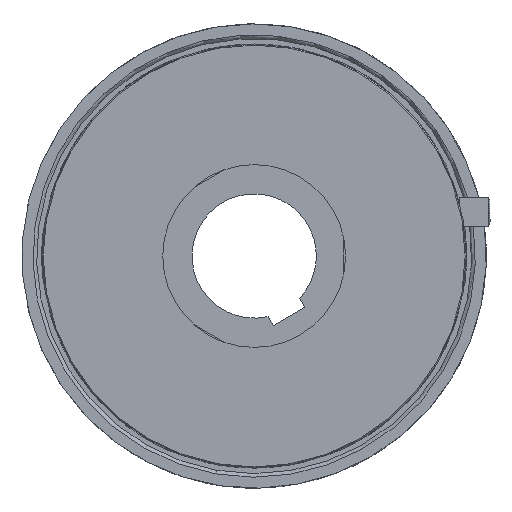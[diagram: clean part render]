
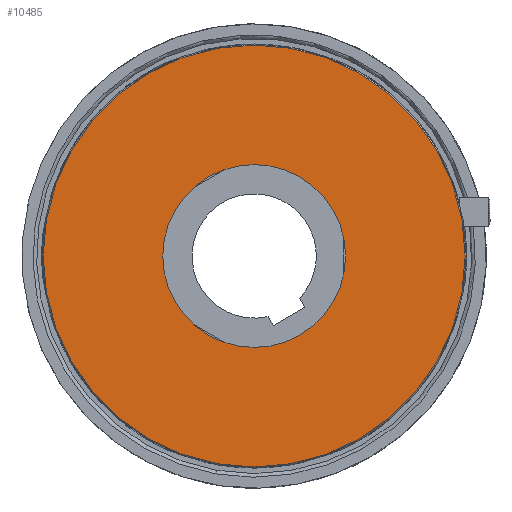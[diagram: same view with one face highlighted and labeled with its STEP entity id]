
A CAD part, left-side view. The second image highlights one B-rep face of the part: STEP entity #10485.
In plain terms, the highlighted planar face has unit normal (-1, 0, 0).
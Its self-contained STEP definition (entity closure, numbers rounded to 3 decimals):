
#2128=PLANE('',#11132);
#2435=FACE_BOUND('',#3304,.T.);
#2718=FACE_OUTER_BOUND('',#3303,.T.);
#3303=EDGE_LOOP('',(#7428));
#3304=EDGE_LOOP('',(#7429));
#4172=CIRCLE('',#11118,57.7);
#4185=CIRCLE('',#11133,25.);
#4797=VERTEX_POINT('',#15534);
#4822=VERTEX_POINT('',#15586);
#5861=EDGE_CURVE('',#4797,#4797,#4172,.T.);
#5886=EDGE_CURVE('',#4822,#4822,#4185,.T.);
#7428=ORIENTED_EDGE('',*,*,#5861,.F.);
#7429=ORIENTED_EDGE('',*,*,#5886,.F.);
#10485=ADVANCED_FACE('',(#2718,#2435),#2128,.T.);
#11118=AXIS2_PLACEMENT_3D('',#15535,#12373,#12374);
#11132=AXIS2_PLACEMENT_3D('',#15585,#12413,#12414);
#11133=AXIS2_PLACEMENT_3D('',#15587,#12415,#12416);
#12373=DIRECTION('center_axis',(1.,0.,0.));
#12374=DIRECTION('ref_axis',(0.,1.,0.));
#12413=DIRECTION('center_axis',(-1.,0.,0.));
#12414=DIRECTION('ref_axis',(0.,0.,-1.));
#12415=DIRECTION('center_axis',(-1.,0.,0.));
#12416=DIRECTION('ref_axis',(0.,-1.,0.));
#15534=CARTESIAN_POINT('',(-92.,-57.7,0.));
#15535=CARTESIAN_POINT('Origin',(-92.,0.,0.));
#15585=CARTESIAN_POINT('Origin',(-92.,-41.5,0.));
#15586=CARTESIAN_POINT('',(-92.,-25.,0.));
#15587=CARTESIAN_POINT('Origin',(-92.,0.,0.));
